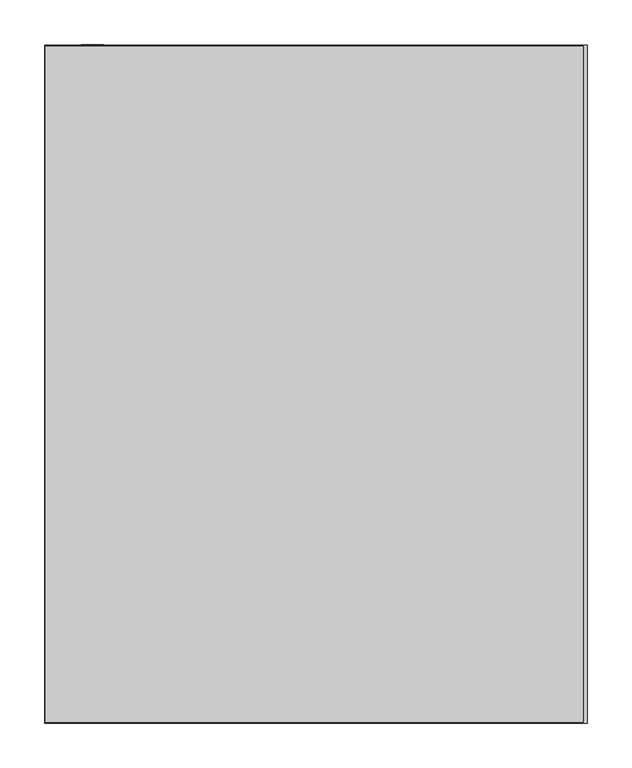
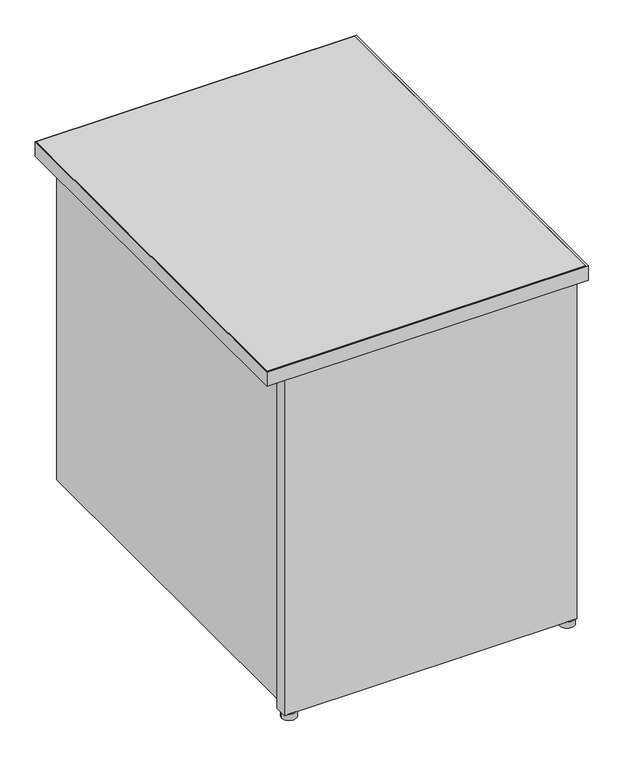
"""IFC4 building model written with IfcOpenShell, lengths in millimetres: furniture geometry, Steelcase - Kick Freestanding - Desk - Return - Full Height Modesty Panel : 24D x 30W - Left."""

from ifc_helpers import new_model, si_unit, point, frame, frame_2d, origin, origin_with_axes, place, context, project, spatial, polyline, circle_curve, trimmed, segment, composite_curve, outline, extrude, source, transform, mapped, element, save


def furniture_8da3133b(model_context):
    return source(origin(), model_context, "Body", "SweptSolid", [
        extrude(outline(composite_curve([segment(trimmed(circle_curve(frame_2d((2220.2474425, -1283.4145152)), 13.97), [point((2206.2774425, -1283.4145152))], [point((2234.2174425, -1283.4145152))], False, "CARTESIAN"), True, "CONTINUOUS"), segment(trimmed(circle_curve(frame_2d((2220.2474425, -1283.4145152)), 13.97), [point((2234.2174425, -1283.4145152))], [point((2206.2774425, -1283.4145152))], False, "CARTESIAN"), True, "CONTINUOUS")], self_intersect=False)), origin_with_axes(), (0.0, 0.0, 1.0), 12.7),
        extrude(outline(composite_curve([segment(trimmed(circle_curve(frame_2d((2748.0594425, -1283.4145152)), 13.97), [point((2734.0894425, -1283.4145152))], [point((2762.0294425, -1283.4145152))], False, "CARTESIAN"), True, "CONTINUOUS"), segment(trimmed(circle_curve(frame_2d((2748.0594425, -1283.4145152)), 13.97), [point((2762.0294425, -1283.4145152))], [point((2734.0894425, -1283.4145152))], False, "CARTESIAN"), True, "CONTINUOUS")], self_intersect=False)), origin_with_axes(), (0.0, 0.0, 1.0), 12.7),
        extrude(outline(polyline([(2205.0074425, -1270.8669152), (2328.2736437, -1270.8669152), (2328.2736437, -1293.2951136), (2427.9940467, -1293.2951136), (2427.9940467, -1270.8669041), (2536.7314502, -1270.8669041), (2536.7314502, -1293.2951136), (2636.4518532, -1293.2951136), (2636.4518532, -1270.8669041), (2759.4894376, -1270.8669041), (2759.4894376, -1295.3525098), (2205.0074425, -1295.3525098), (2205.0074425, -1270.8669152)])), frame((0.0, 0.0, 12.7), z_axis=(0.0, 0.0, 1.0), x_axis=(1.0, 0.0, 0.0)), (0.0, 0.0, 1.0), 682.244),
        extrude(outline(polyline([(2230.4074426, -546.0525152), (2230.4074426, -1270.8669152), (2205.0074425, -1270.8669152), (2205.0074425, -546.0525152), (2230.4074426, -546.0525152)])), frame((0.0, 0.0, 31.242), z_axis=(0.0, 0.0, 1.0), x_axis=(1.0, 0.0, 0.0)), (0.0, 0.0, 1.0), 663.702),
        extrude(outline(polyline([(2769.2176592, -548.0845152), (2769.2176592, -1307.5445152), (2164.8500425, -1307.5445152), (2164.8500425, -548.0845152), (2769.2176592, -548.0845152)])), frame((0.0, 0.0, 694.944), z_axis=(0.0, 0.0, 1.0), x_axis=(1.0, 0.0, 0.0)), (0.0, 0.0, 1.0), 28.956),
        extrude(outline(polyline([(2773.4594425, -546.8145152), (2773.4594425, -1308.8145152), (2163.8594425, -1308.8145152), (2163.8594425, -546.8145152), (2773.4594425, -546.8145152)]), holes=[polyline([(2769.2176592, -548.0845152), (2164.8500425, -548.0845152), (2164.8500425, -1307.5445152), (2769.2176592, -1307.5445152), (2769.2176592, -548.0845152)])]), frame((0.0, 0.0, 694.944), z_axis=(0.0, 0.0, 1.0), x_axis=(1.0, 0.0, 0.0)), (0.0, 0.0, 1.0), 28.956),
    ])


if __name__ == "__main__":
    model = new_model("IFC4")
    model_context = context("Model", 3, world=origin())
    ifc_project = project(units=[si_unit("LENGTHUNIT", "METRE", prefix="MILLI")], contexts=[model_context])
    site = spatial("IfcSite", under=ifc_project)
    building = spatial("IfcBuilding", under=site)
    placement = place(None, origin())
    furniture_shape = furniture_8da3133b(model_context)
    element("IfcFurniture", 1, ObjectType="Steelcase - Kick Freestanding - Desk - Return - Full Height Modesty Panel : 24D x 30W - Left", at=placement, inside=building, context=model_context, shape_type="MappedRepresentation", body=[
        mapped(furniture_shape, transform((0.0, 0.0, 0.0), x_axis=(1.0, 0.0, 0.0), y_axis=(0.0, 1.0, 0.0), z_axis=(0.0, 0.0, 1.0))),
    ])
    save(model, "model.ifc")
